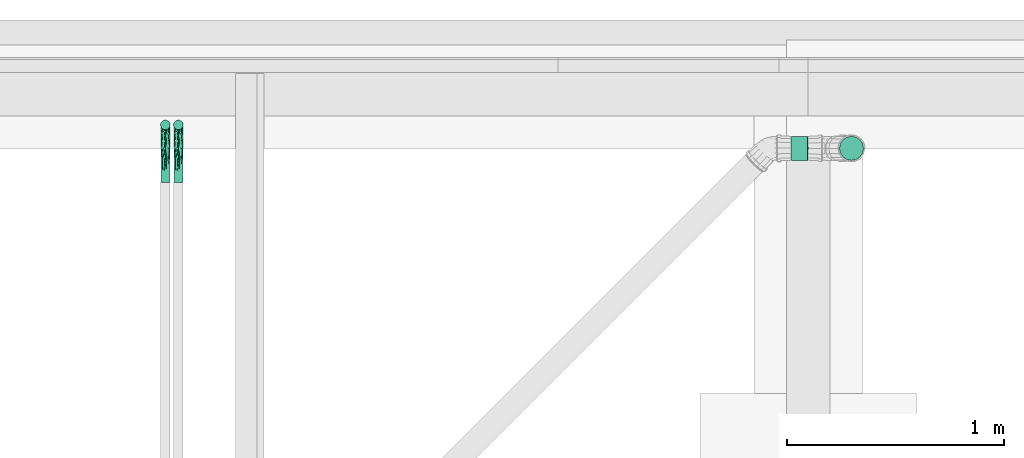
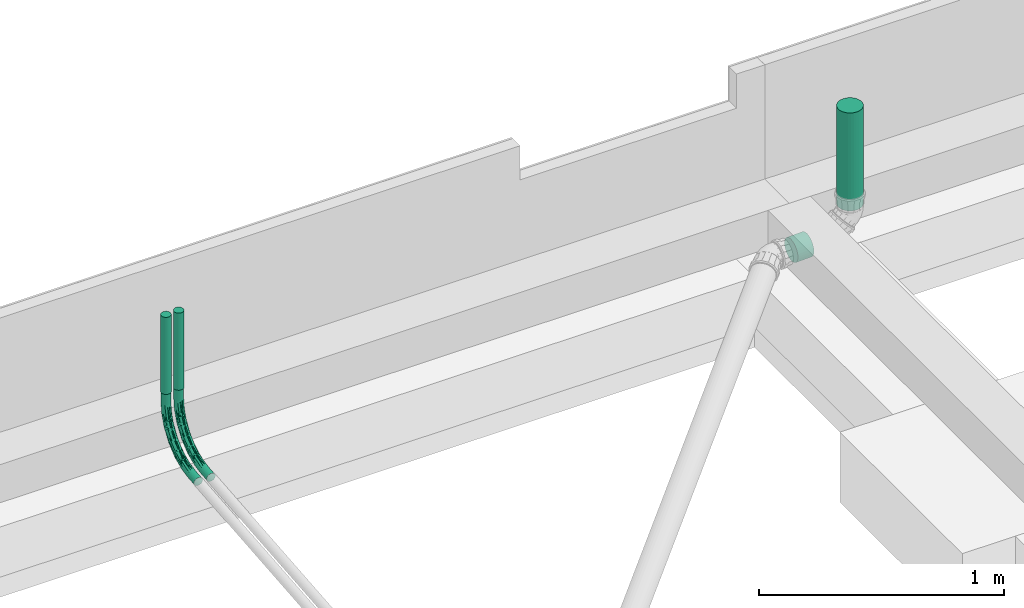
# One storey, part 16 of 18: 2 cable carrier fittings, 2 cable carrier segments, 2 pipe segments.
"""IFC4 building model written with IfcOpenShell, lengths in centimetres."""

from ifc_helpers import new_model, entity, si_unit, converted_unit, derived_unit, direction, frame, origin, place, context, subcontext, project, spatial, arc, indexed_curve, outline, extrude, polygons, source, transform, mapped, material, type_object, type_shapes, element, save


model = new_model("IFC4")

# Units and contexts
model_context = context("Model", 3, precision=0.001, world=origin(), true_north=direction((6.123233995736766e-17, 1.0)))
body_context = subcontext(model_context, "Body", "Model", "MODEL_VIEW")
ifc_project = project(units=[si_unit("LENGTHUNIT", "METRE", prefix="CENTI"), si_unit("AREAUNIT", "SQUARE_METRE"), converted_unit("PLANEANGLEUNIT", "DEGREE", entity("IfcPlaneAngleMeasure", 0.017453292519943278), si_unit("PLANEANGLEUNIT", "RADIAN"), dimensions=[0, 0, 0, 0, 0, 0, 0]), si_unit("VOLUMEUNIT", "CUBIC_METRE"), derived_unit("THERMALTRANSMITTANCEUNIT", [(si_unit("MASSUNIT", "GRAM", prefix="KILO"), 1), (si_unit("THERMODYNAMICTEMPERATUREUNIT", "KELVIN"), -1), (si_unit("TIMEUNIT", "SECOND"), -3)])], contexts=[model_context])

# Site, building, storey
site_placement = place(None, frame((-0.003347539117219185, 0.0, 0.0)))
site = spatial("IfcSite", under=ifc_project, at=site_placement, Name="Default", CompositionType="ELEMENT")
building_placement = place(site_placement, origin())
building = spatial("IfcBuilding", under=site, at=building_placement, CompositionType="ELEMENT")
storey_placement = place(building_placement, frame((0.0, 0.0, -30.0)))
storey = spatial("IfcBuildingStorey", under=building, at=storey_placement, Name="Fondation B.O.", CompositionType="ELEMENT", Elevation=-30.0)

# Pipe segments
pipe_segment_type = type_object("IfcPipeSegmentType", Name="Canalisation:Valsir PP3", PredefinedType="NOTDEFINED")
pipe_segment_1_placement = place(storey_placement, origin())
element("IfcPipeSegment", 1, at=pipe_segment_1_placement, inside=storey, type_object=pipe_segment_type, Name="Canalisation:Valsir PP3", ObjectType="Canalisation:Valsir PP3", PredefinedType="NOTDEFINED", context=body_context, shape_type="SweptSolid", body=[
    extrude(outline(indexed_curve([(5.50000000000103, -4.3788930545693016e-21), (3.889087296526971, 3.8890872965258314), (1.1255351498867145e-12, 5.499999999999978), (-3.8890872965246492, 3.8890872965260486), (-5.4999999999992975, 4.2126483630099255e-21), (-3.889087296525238, -3.8890872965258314), (6.070522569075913e-13, -5.499999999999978), (3.889087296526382, -3.8890872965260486)], segments=[arc(1, 2, 3), arc(3, 4, 5), arc(5, 6, 7), arc(7, 8, 1)], self_intersect=False)), frame((-5637.5871312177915, -1727.876363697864, 21.127875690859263)), (0.0, 0.0, 1.0), 48.87212431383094),
])
pipe_segment_2_placement = place(storey_placement, origin())
element("IfcPipeSegment", 2, at=pipe_segment_2_placement, inside=storey, type_object=pipe_segment_type, Name="Canalisation:Valsir PP3", ObjectType="Canalisation:Valsir PP3", PredefinedType="NOTDEFINED", context=body_context, shape_type="SweptSolid", body=[
    extrude(outline(indexed_curve([(5.500000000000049, -3.381698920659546e-15), (3.889087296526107, 3.8890872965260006), (0.0, 5.499999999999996), (-3.889087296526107, 3.889087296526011), (-5.500000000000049, 1.3526795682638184e-14), (-3.889087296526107, -3.8890872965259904), (0.0, -5.500000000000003), (3.8890872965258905, -3.8890872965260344)], segments=[arc(1, 2, 3), arc(3, 4, 5), arc(5, 6, 7), arc(7, 8, 1)], self_intersect=False)), frame((-5665.322860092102, -1727.876363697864, 7.520518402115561), z_axis=(0.9993318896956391, 0.0, 0.036548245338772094), x_axis=(0.0, 1.0, 0.0)), (0.0, 0.0, 1.0), 7.588799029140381),
])

# Cable carrier segments
cable_carrier_segment_type = type_object("IfcCableCarrierSegmentType", Name="Conduit sans raccords:TPC", PredefinedType="CONDUITSEGMENT")
cable_carrier_segment_1_placement = place(storey_placement, origin())
element("IfcCableCarrierSegment", 3, at=cable_carrier_segment_1_placement, inside=storey, type_object=cable_carrier_segment_type, Name="Conduit sans raccords:TPC", ObjectType="Conduit sans raccords:TPC", PredefinedType="CONDUITSEGMENT", context=body_context, shape_type="SweptSolid", body=[
    extrude(outline(indexed_curve([(2.2100000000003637, 1.3177158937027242e-26), (1.5627059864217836, 1.5627059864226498), (-8.662937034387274e-13, 2.2099999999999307), (-1.5627059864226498, 1.562705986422), (-2.2100000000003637, -1.3177158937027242e-26), (-1.5627059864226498, -1.562705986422), (-8.66293703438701e-13, -2.2099999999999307), (1.5627059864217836, -1.5627059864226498)], segments=[arc(1, 2, 3), arc(3, 4, 5), arc(5, 6, 7), arc(7, 8, 1)], self_intersect=False)), frame((-5948.099445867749, -1717.0668187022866, 31.54353718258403)), (0.0, 0.0, 1.0), 38.456462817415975),
])
cable_carrier_segment_2_placement = place(storey_placement, origin())
element("IfcCableCarrierSegment", 4, at=cable_carrier_segment_2_placement, inside=storey, type_object=cable_carrier_segment_type, Name="Conduit sans raccords:TPC", ObjectType="Conduit sans raccords:TPC", PredefinedType="CONDUITSEGMENT", context=body_context, shape_type="SweptSolid", body=[
    extrude(outline(indexed_curve([(2.21000000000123, 1.3177158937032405e-26), (1.5627059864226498, 1.5627059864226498), (-1.317715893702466e-26, 2.2099999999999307), (-1.5627059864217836, 1.562705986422), (-2.2099999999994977, -1.3177158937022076e-26), (-1.5627059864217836, -1.562705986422), (1.317715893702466e-26, -2.2099999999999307), (1.5627059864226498, -1.5627059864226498)], segments=[arc(1, 2, 3), arc(3, 4, 5), arc(5, 6, 7), arc(7, 8, 1)], self_intersect=False)), frame((-5954.09944586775, -1717.0668187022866, 31.54353718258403)), (0.0, 0.0, 1.0), 38.456462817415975),
])

# Cable carrier fittings
ifc_material = material(Name="<Unnamed>")
cable_carrier_fitting_type = type_object("IfcCableCarrierFittingType", Name="Courbure de conduit en plastique rigide - Sans raccords:Raccord TPC BT", PredefinedType="NOTDEFINED", material=ifc_material)
shared_shape = source(origin(), body_context, "Body", "Tessellation", [
    polygons([(-26.543537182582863, -2.050000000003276, -1.936944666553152e-13), (-26.543537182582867, -1.980147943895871, 0.5305790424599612), (-26.543537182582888, -1.7753520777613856, 1.0249999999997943), (-26.54353718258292, -1.4495689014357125, 1.4495689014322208), (-26.543537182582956, -1.0250000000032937, 1.7753520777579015), (-26.543537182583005, -0.530579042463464, 1.9801479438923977), (-26.54353718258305, -3.2977625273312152e-12, 2.0499999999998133), (-26.543537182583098, 0.5305790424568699, 1.980147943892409), (-26.543537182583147, 1.0249999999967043, 1.7753520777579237), (-26.543537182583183, 1.44956890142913, 1.4495689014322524), (-26.543537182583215, 1.7753520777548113, 1.0249999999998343), (-26.543537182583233, 1.9801479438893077, 0.5305790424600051), (-26.54353718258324, 2.049999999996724, -1.7382326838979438e-13), (-26.543537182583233, 1.9801479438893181, -0.5305790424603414), (-26.543537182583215, 1.775352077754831, -1.0250000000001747), (-26.543537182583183, 1.4495689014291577, -1.449568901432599), (-26.543537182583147, 1.0249999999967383, -1.7753520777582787), (-26.543537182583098, 0.5305790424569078, -1.980147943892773), (-26.54353718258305, -3.2603430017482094e-12, -2.0500000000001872), (-26.543537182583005, -0.5305790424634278, -1.9801479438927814), (-26.543537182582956, -1.0250000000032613, -1.7753520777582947), (-26.54353718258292, -1.449568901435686, -1.4495689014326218), (-26.543537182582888, -1.775352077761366, -1.0250000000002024), (-26.543537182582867, -1.9801479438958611, -0.5305790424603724), (-21.152537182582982, -2.0500000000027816, -1.936944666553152e-13), (-21.152537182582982, -1.9801479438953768, 0.5305790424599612), (-21.152537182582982, -1.7753520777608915, 1.0249999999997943), (-21.152537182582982, -1.4495689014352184, 1.4495689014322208), (-21.152537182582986, -1.0250000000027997, 1.7753520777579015), (-21.152537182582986, -0.5305790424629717, 1.9801479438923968), (-21.152537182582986, -2.805525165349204e-12, 2.0499999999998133), (-21.15253718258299, 0.5305790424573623, 1.9801479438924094), (-21.15253718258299, 1.0249999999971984, 1.7753520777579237), (-21.15253718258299, 1.449568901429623, 1.4495689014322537), (-21.152537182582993, 1.7753520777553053, 1.0249999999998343), (-21.152537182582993, 1.9801479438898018, 0.5305790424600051), (-21.152537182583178, 2.0499999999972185, -1.610779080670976e-13), (-21.152537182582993, 1.9801479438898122, -0.5305790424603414), (-21.152537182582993, 1.775352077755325, -1.0250000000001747), (-21.15253718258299, 1.4495689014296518, -1.449568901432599), (-21.15253718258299, 1.0249999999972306, -1.7753520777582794), (-21.15253718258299, 0.5305790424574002, -1.9801479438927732), (-21.152537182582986, -2.7644641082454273e-12, -2.0500000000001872), (-21.152537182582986, -0.5305790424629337, -1.9801479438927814), (-21.152537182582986, -1.0250000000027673, -1.7753520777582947), (-21.152537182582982, -1.449568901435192, -1.4495689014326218), (-21.152537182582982, -1.775352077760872, -1.0250000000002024), (-21.152537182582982, -1.980147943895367, -0.5305790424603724), (-0.12443941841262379, 21.25127864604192, -1.7382326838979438e-13), (-0.9943328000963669, 16.88089138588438, -1.7382326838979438e-13), (-2.7620338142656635, 12.790386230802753, -1.7382326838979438e-13), (-5.348812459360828, 9.161946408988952, -1.7382326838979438e-13), (-8.639458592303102, 6.157175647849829, -1.7382326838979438e-13), (-12.487413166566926, 3.9099006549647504, -1.7382326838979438e-13), (-16.72129569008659, 2.520210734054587, -1.7382326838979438e-13), (-15.860860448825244, -1.4884862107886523, -1.936944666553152e-13), (-10.80486481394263, 0.17104641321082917, -1.936944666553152e-13), (-6.209734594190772, 2.854685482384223, -1.936944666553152e-13), (-2.2801280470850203, 6.442906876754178, -1.936944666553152e-13), (0.8089377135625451, 10.775898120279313, -1.936944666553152e-13), (2.9198816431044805, 15.660676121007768, -1.936944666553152e-13), (3.958686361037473, 20.879682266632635, -1.936944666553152e-13), (3.889121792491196, 20.886013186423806, 0.5305790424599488), (3.6851687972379, 20.904574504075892, 1.0249999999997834), (3.3607264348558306, 20.934101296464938, 1.4495689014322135), (2.9379049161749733, 20.972581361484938, 1.7753520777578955), (2.4455188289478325, 21.01739234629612, 1.9801479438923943), (1.9171234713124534, 21.065480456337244, 2.049999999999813), (1.3887281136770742, 21.113568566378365, 1.980147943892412), (0.8963420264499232, 21.15837955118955, 1.7753520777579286), (0.47352050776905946, 21.19685961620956, 1.449568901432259), (0.14907814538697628, 21.226386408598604, 1.0249999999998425), (-0.054874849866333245, 21.24494772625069, 0.5305790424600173), (-6.584895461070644, 7.211385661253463, 1.328858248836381), (-4.534606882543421, 4.966031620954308, 1.4188653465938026), (-5.670708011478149, 6.21022196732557, 2.0397021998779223), (-10.345946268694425, 4.861622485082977, 0.7458470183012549), (-3.903926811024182, 10.74399054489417, 0.7458470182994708), (-0.6919821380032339, 8.718682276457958, 0.8137652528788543), (-0.7056316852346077, 10.624204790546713, 1.878243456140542), (-10.516525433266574, 1.6656338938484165, 1.878243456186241), (-8.620082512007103, 1.4793367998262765, 0.813765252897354), (-1.5101809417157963, 12.371842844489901, 1.9068430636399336), (-12.184051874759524, 2.625266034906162, 1.9068430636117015), (-13.9386075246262, 2.8523704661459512, 1.2697705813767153), (-1.5773295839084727, 14.139760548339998, 1.2697705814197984), (1.8490369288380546, 13.873721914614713, 1.226977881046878), (-13.984206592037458, -0.5840062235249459, 1.2269778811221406), (-14.435866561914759, 3.0929510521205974, 0.4545522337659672), (-6.8802381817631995, 7.5348274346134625, 0.45455223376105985), (-1.7718518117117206, 14.656777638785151, 0.45455223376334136), (-4.193930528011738, 4.5929431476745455, 0.5126565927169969), (1.9893993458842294, 13.317847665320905, 0.5126565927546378), (0.6455740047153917, 14.500300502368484, 2.0290856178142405), (-14.499132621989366, 0.6712925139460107, 2.0290856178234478), (-13.443341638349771, -0.7741716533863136, 0.5126565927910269), (-15.711710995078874, 1.9170871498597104, 1.6388391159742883), (-0.48519342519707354, 15.820798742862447, 1.6388391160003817), (-10.44743969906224, 4.929099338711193, 0.35433543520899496), (-3.9619272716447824, 10.85118191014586, 0.35433543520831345), (2.03613496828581, 15.479853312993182, 1.613941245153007), (-15.600685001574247, -0.6247653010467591, 1.6139412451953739), (0.5555723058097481, 15.819458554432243, 2.0349705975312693), (-15.804704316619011, 0.8804833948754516, 2.0349705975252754), (-0.5363182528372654, 9.828375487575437, 1.5077980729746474), (-9.73931692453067, 1.4248886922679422, 1.5077980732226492), (-10.22462295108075, 4.242162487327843, 1.5740141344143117), (-5.0754858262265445, 8.04529969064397, 1.7329393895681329), (-1.7770854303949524, 10.570710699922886, 2.049234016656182), (-4.427000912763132, 6.528344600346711, 2.0053094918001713), (-10.366142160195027, 2.7278295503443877, 2.0492340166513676), (1.7242966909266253, 16.02033854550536, 1.8867991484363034), (-16.11068285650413, -0.26522450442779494, 1.8867991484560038), (-0.6200425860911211, 8.591225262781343, 0.38289381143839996), (-8.49967018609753, 1.3961414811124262, 0.38289381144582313), (-4.833483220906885, 5.35150740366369, 1.79318215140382), (-14.664667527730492, 2.860714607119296, 0.8845129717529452), (-1.5198341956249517, 14.863588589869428, 0.8845129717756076), (-4.319795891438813, 4.730783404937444, 0.9843600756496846), (-1.493024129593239, 7.998709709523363, 1.1963918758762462), (-7.830472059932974, 2.2118285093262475, 1.1963918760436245), (0.40128762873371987, 17.085841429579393, 1.899781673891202), (-17.05189186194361, 1.1489095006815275, 1.899781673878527), (-2.7691440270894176, 11.397068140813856, 1.553448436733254), (-9.793814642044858, 2.5218789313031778, 2.0112283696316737), (-3.7505957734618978, 10.417995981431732, 1.2892169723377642), (-6.792924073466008, 7.43920621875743, 0.8411517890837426), (-9.935481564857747, 4.872230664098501, 1.13525711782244), (2.8174852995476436, 16.007312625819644, 0.8813213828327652), (-12.79883623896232, -0.41125032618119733, 0.8884461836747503), (-17.279976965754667, -1.6001450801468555, 0.767031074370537), (-8.55545242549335, 4.882353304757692, 1.8098869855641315), (-5.303082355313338, 7.19740517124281, 1.9385269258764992), (-8.648019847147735, 4.261987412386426, 1.9880041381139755), (-1.3809230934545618, 10.308589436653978, 2.006728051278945), (-0.054874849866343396, 21.24494772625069, -0.5305790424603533), (0.14907814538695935, 21.226386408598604, -1.0250000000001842), (0.47352050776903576, 21.196859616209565, -1.4495689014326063), (0.8963420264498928, 21.15837955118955, -1.7753520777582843), (1.3887281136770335, 21.11356856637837, -1.9801479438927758), (1.9171234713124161, 21.06548045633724, -2.0500000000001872), (2.445518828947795, 21.017392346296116, -1.9801479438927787), (2.937904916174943, 20.97258136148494, -1.7753520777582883), (3.3607264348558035, 20.934101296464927, -1.449568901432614), (3.6851687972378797, 20.904574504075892, -1.0250000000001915), (3.889121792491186, 20.8860131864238, -0.5305790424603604), (-6.5848956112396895, 7.211385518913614, -1.328858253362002), (-4.53460688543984, 4.966031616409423, -1.4188653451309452), (-5.670708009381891, 6.2102219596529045, -2.0397022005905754), (-10.345946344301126, 4.861622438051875, -0.7458470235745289), (-3.9039267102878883, 10.74399066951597, -0.745847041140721), (-8.620082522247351, 1.4793367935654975, -0.8137652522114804), (-10.516525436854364, 1.665633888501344, -1.878243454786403), (-0.7056316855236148, 10.624204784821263, -1.8782434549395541), (-0.6919821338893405, 8.71868228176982, -0.8137652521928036), (-12.184051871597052, 2.6252660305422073, -1.9068430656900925), (-1.5101809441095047, 12.371842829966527, -1.9068430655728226), (-13.938607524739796, 2.852370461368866, -1.2697705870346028), (-1.5773295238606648, 14.139760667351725, -1.2697705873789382), (-13.984206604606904, -0.5840062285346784, -1.2269778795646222), (1.8490369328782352, 13.873721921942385, -1.2269778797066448), (-6.880238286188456, 7.534827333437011, -0.45455225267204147), (-14.435866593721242, 3.0929510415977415, -0.4545522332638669), (-1.7718517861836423, 14.656777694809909, -0.4545522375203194), (-13.443341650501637, -0.7741716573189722, -0.5126565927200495), (-14.49913261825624, 0.6712925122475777, -2.0290856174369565), (0.6455740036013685, 14.500300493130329, -2.029085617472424), (-4.19393052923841, 4.592943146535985, -0.5126565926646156), (1.9893993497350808, 13.317847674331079, -0.5126565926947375), (-15.711711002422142, 1.9170871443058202, -1.6388391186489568), (-0.4851934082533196, 15.820798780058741, -1.6388391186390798), (-10.44743976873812, 4.92909929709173, -0.3543354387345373), (-3.961927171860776, 10.851182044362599, -0.354335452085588), (-15.60068499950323, -0.6247653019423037, -1.6139412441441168), (2.0361349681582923, 15.47985330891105, -1.6139412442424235), (-15.804704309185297, 0.8804833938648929, -2.0349705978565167), (0.5555723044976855, 15.819458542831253, -2.034970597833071), (-9.739316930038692, 1.4248886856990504, -1.5077980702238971), (-0.5363182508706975, 9.82837548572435, -1.5077980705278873), (-10.224623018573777, 4.242162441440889, -1.574014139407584), (-5.075485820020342, 8.045299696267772, -1.7329393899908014), (-10.366142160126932, 2.7278295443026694, -2.0492340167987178), (-6.100242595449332, 5.000466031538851, -2.0053094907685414), (-1.777085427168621, 10.570710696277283, -2.0492340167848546), (-16.110682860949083, -0.2652245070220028, -1.8867991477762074), (1.7242966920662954, 16.020338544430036, -1.8867991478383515), (-8.499670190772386, 1.3961414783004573, -0.3828938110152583), (-0.6200425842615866, 8.591225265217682, -0.38289381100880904), (-4.891408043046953, 5.29861480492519, -1.7931821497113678), (-14.664667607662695, 2.8607145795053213, -0.8845129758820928), (-1.5198341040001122, 14.863588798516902, -0.8845129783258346), (-4.319795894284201, 4.730783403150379, -0.9843600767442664), (-7.830472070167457, 2.2118285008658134, -1.196391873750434), (-1.4930241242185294, 7.998709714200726, -1.1963918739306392), (-17.051891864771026, 1.1489094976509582, -1.8997816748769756), (0.40128763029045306, 17.08584142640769, -1.8997816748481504), (-2.769144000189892, 11.397068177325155, -1.5534484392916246), (-1.6238543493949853, 9.982072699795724, -2.011228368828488), (-3.7505958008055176, 10.417995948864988, -1.289216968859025), (-6.792924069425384, 7.439206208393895, -0.8411518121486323), (-9.93548167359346, 4.872230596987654, -1.13525711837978), (-16.19678980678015, -1.3550945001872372, -0.8813213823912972), (1.5695580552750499, 12.708887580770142, -0.8884461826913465), (3.159700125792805, 17.063832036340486, -0.76703107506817), (-4.559861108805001, 7.9500933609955, -1.943366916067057), (-7.997709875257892, 5.153082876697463, -1.860530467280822), (-10.141005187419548, 2.3095407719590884, -2.0067280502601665), (4.44729028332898, 26.24849472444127, -1.9278408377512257e-13), (4.377725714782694, 26.25482564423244, -0.5305790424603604), (4.1737727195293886, 26.273386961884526, -1.0250000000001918), (3.849330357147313, 26.30291375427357, -1.449568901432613), (3.4265088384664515, 26.34139381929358, -1.7753520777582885), (2.934122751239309, 26.38620480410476, -1.9801479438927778), (2.4057273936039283, 26.43429291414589, -2.0500000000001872), (1.8773320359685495, 26.482381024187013, -1.9801479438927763), (1.3849459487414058, 26.527192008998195, -1.7753520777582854), (0.9621244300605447, 26.56567207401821, -1.4495689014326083), (0.6376820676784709, 26.595198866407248, -1.0250000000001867), (0.4337290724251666, 26.613760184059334, -0.530579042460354), (0.3641645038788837, 26.620091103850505, -1.6289867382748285e-13), (0.4337290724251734, 26.613760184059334, 0.5305790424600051), (0.637682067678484, 26.595198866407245, 1.0249999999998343), (0.9621244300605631, 26.565672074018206, 1.4495689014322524), (1.3849459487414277, 26.527192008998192, 1.7753520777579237), (1.8773320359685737, 26.48238102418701, 1.980147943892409), (2.4057273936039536, 26.434292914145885, 2.0499999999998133), (2.934122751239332, 26.386204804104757, 1.9801479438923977), (3.4265088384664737, 26.341393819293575, 1.7753520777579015), (3.849330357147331, 26.30291375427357, 1.4495689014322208), (4.173772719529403, 26.273386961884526, 1.0249999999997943), (4.377725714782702, 26.25482564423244, 0.5305790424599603)], [[[19, 20, 21, 22, 23, 24, 1, 2, 3, 4, 5, 6, 7, 8, 9, 10, 11, 12, 13, 14, 15, 16, 17, 18]], [[2, 1, 25, 26]], [[27, 3, 2, 26]], [[5, 4, 28, 29]], [[27, 28, 4, 3]], [[6, 5, 29, 30]], [[30, 31, 7, 6]], [[9, 8, 32, 33]], [[34, 10, 9, 33]], [[12, 11, 35, 36]], [[34, 35, 11, 10]], [[13, 12, 36, 37]], [[32, 8, 7, 31]], [[14, 13, 37, 38]], [[39, 15, 14, 38]], [[17, 16, 40, 41]], [[39, 40, 16, 15]], [[18, 17, 41, 42]], [[42, 43, 19, 18]], [[21, 20, 44, 45]], [[46, 22, 21, 45]], [[24, 23, 47, 48]], [[46, 47, 23, 22]], [[1, 24, 48, 25]], [[44, 20, 19, 43]], [[54, 55, 89]], [[57, 96, 56]], [[72, 86, 71]], [[57, 58, 115]], [[56, 26, 25]], [[85, 35, 34]], [[102, 29, 28]], [[73, 50, 91]], [[59, 92, 58]], [[57, 115, 96]], [[28, 88, 102]], [[60, 61, 93]], [[30, 29, 113]], [[119, 92, 79]], [[115, 92, 82]], [[118, 73, 91]], [[94, 67, 68]], [[95, 104, 31]], [[99, 53, 54]], [[117, 77, 89]], [[30, 95, 31]], [[116, 80, 110]], [[32, 123, 33]], [[135, 110, 80]], [[128, 117, 85]], [[127, 78, 90]], [[130, 131, 96]], [[55, 37, 36]], [[77, 99, 89]], [[94, 68, 103]], [[91, 78, 118]], [[131, 26, 96]], [[32, 31, 104]], [[27, 88, 28]], [[92, 59, 114]], [[87, 64, 65]], [[94, 80, 112]], [[127, 90, 77]], [[92, 119, 82]], [[93, 79, 114]], [[99, 90, 53]], [[101, 105, 87]], [[55, 36, 89]], [[129, 64, 87]], [[67, 112, 66]], [[129, 79, 93]], [[121, 82, 119]], [[87, 105, 120]], [[106, 81, 102]], [[62, 63, 61]], [[117, 36, 35]], [[65, 66, 101]], [[50, 51, 91]], [[52, 53, 90]], [[113, 95, 30]], [[91, 51, 100]], [[49, 50, 73]], [[65, 101, 87]], [[108, 74, 107]], [[34, 97, 85]], [[74, 124, 126]], [[98, 70, 71]], [[52, 100, 51]], [[78, 100, 90]], [[34, 33, 97]], [[85, 97, 107]], [[77, 117, 128]], [[94, 103, 109]], [[69, 70, 122]], [[132, 133, 108]], [[124, 98, 86]], [[114, 59, 60]], [[126, 118, 78]], [[98, 71, 86]], [[61, 63, 93]], [[63, 64, 129]], [[68, 69, 103]], [[109, 110, 135]], [[95, 125, 111]], [[111, 84, 104]], [[130, 96, 82]], [[26, 56, 96]], [[123, 97, 33]], [[107, 74, 128]], [[124, 74, 108]], [[122, 98, 83]], [[89, 99, 54]], [[90, 99, 77]], [[90, 100, 52]], [[91, 100, 78]], [[112, 101, 66]], [[80, 116, 105]], [[106, 102, 88]], [[113, 102, 81]], [[122, 103, 69]], [[83, 133, 109]], [[111, 104, 95]], [[123, 104, 84]], [[80, 105, 101]], [[75, 119, 120]], [[88, 130, 121]], [[106, 75, 116]], [[97, 84, 107]], [[84, 134, 132]], [[132, 108, 107]], [[124, 83, 98]], [[83, 109, 103]], [[109, 76, 110]], [[110, 76, 111]], [[116, 75, 105]], [[95, 81, 125]], [[111, 76, 134]], [[94, 112, 67]], [[101, 112, 80]], [[102, 113, 29]], [[95, 113, 81]], [[93, 114, 60]], [[92, 114, 79]], [[92, 115, 58]], [[96, 115, 82]], [[125, 116, 110]], [[106, 116, 81]], [[36, 117, 89]], [[35, 85, 117]], [[86, 72, 118]], [[73, 118, 72]], [[120, 119, 79]], [[121, 75, 106]], [[87, 120, 79]], [[75, 120, 105]], [[75, 121, 119]], [[88, 121, 106]], [[98, 122, 70]], [[103, 122, 83]], [[104, 123, 32]], [[97, 123, 84]], [[124, 86, 126]], [[83, 124, 108]], [[116, 125, 81]], [[110, 111, 125]], [[118, 126, 86]], [[127, 126, 78]], [[128, 127, 77]], [[126, 127, 74]], [[107, 128, 85]], [[127, 128, 74]], [[79, 129, 87]], [[63, 129, 93]], [[121, 130, 82]], [[131, 88, 27]], [[88, 131, 130]], [[27, 26, 131]], [[107, 84, 132]], [[133, 134, 76]], [[109, 133, 76]], [[83, 108, 133]], [[132, 134, 133]], [[111, 134, 84]], [[80, 94, 135]], [[109, 135, 94]], [[170, 41, 40]], [[57, 56, 165]], [[166, 176, 182]], [[170, 40, 158]], [[53, 172, 54]], [[189, 153, 183]], [[37, 55, 38]], [[204, 146, 169]], [[53, 52, 162]], [[54, 172, 163]], [[203, 204, 169]], [[55, 54, 163]], [[159, 137, 138]], [[39, 158, 40]], [[173, 162, 52]], [[166, 43, 176]], [[152, 165, 202]], [[50, 136, 164]], [[160, 202, 47]], [[48, 47, 202]], [[56, 48, 165]], [[25, 48, 56]], [[187, 58, 57]], [[191, 136, 137]], [[166, 153, 185]], [[201, 190, 150]], [[190, 38, 163]], [[187, 165, 152]], [[192, 155, 168]], [[142, 167, 141]], [[160, 174, 178]], [[185, 45, 44]], [[38, 55, 163]], [[46, 174, 160]], [[172, 162, 150]], [[200, 162, 151]], [[164, 151, 173]], [[207, 183, 153]], [[200, 150, 162]], [[138, 171, 159]], [[50, 49, 136]], [[186, 167, 142]], [[151, 164, 191]], [[51, 50, 164]], [[196, 139, 140]], [[145, 161, 144]], [[160, 178, 193]], [[177, 141, 167]], [[166, 44, 43]], [[199, 191, 159]], [[194, 155, 192]], [[141, 177, 140]], [[161, 175, 144]], [[199, 159, 197]], [[41, 195, 42]], [[59, 58, 168]], [[188, 169, 60]], [[160, 47, 46]], [[143, 144, 175]], [[143, 186, 142]], [[59, 188, 60]], [[158, 180, 170]], [[62, 61, 146]], [[159, 171, 197]], [[205, 206, 181]], [[61, 60, 169]], [[201, 158, 190]], [[188, 168, 155]], [[138, 139, 171]], [[52, 51, 173]], [[46, 45, 174]], [[163, 150, 190]], [[179, 154, 175]], [[181, 206, 180]], [[43, 42, 176]], [[182, 183, 207]], [[167, 198, 184]], [[184, 157, 177]], [[187, 168, 58]], [[192, 168, 152]], [[203, 169, 155]], [[146, 61, 169]], [[158, 201, 180]], [[195, 170, 156]], [[196, 171, 139]], [[157, 181, 197]], [[162, 172, 53]], [[163, 172, 150]], [[164, 173, 51]], [[162, 173, 151]], [[185, 174, 45]], [[153, 189, 178]], [[179, 175, 161]], [[186, 175, 154]], [[195, 176, 42]], [[182, 156, 149]], [[184, 177, 167]], [[196, 177, 157]], [[153, 178, 174]], [[148, 192, 193]], [[161, 203, 194]], [[179, 148, 189]], [[181, 180, 147]], [[156, 170, 180]], [[199, 197, 147]], [[181, 157, 205]], [[156, 182, 176]], [[182, 149, 183]], [[183, 149, 184]], [[189, 148, 178]], [[167, 154, 198]], [[184, 149, 205]], [[166, 185, 44]], [[174, 185, 153]], [[175, 186, 143]], [[167, 186, 154]], [[165, 187, 57]], [[168, 187, 152]], [[168, 188, 59]], [[169, 188, 155]], [[198, 189, 183]], [[179, 189, 154]], [[158, 39, 190]], [[38, 190, 39]], [[136, 191, 164]], [[137, 159, 191]], [[193, 192, 152]], [[194, 148, 179]], [[160, 193, 152]], [[148, 193, 178]], [[148, 194, 192]], [[161, 194, 179]], [[170, 195, 41]], [[176, 195, 156]], [[177, 196, 140]], [[171, 196, 157]], [[157, 197, 171]], [[147, 197, 181]], [[189, 198, 154]], [[183, 184, 198]], [[200, 199, 147]], [[191, 199, 151]], [[199, 200, 151]], [[201, 200, 147]], [[200, 201, 150]], [[180, 201, 147]], [[152, 202, 160]], [[48, 202, 165]], [[194, 203, 155]], [[204, 161, 145]], [[161, 204, 203]], [[145, 146, 204]], [[184, 205, 157]], [[206, 149, 156]], [[149, 206, 205]], [[180, 206, 156]], [[153, 166, 207]], [[182, 207, 166]], [[215, 216, 217, 218, 219, 220, 221, 222, 223, 224, 225, 226, 227, 228, 229, 230, 231, 208, 209, 210, 211, 212, 213, 214]], [[63, 62, 208, 231]], [[230, 64, 63, 231]], [[66, 65, 229, 228]], [[230, 229, 65, 64]], [[67, 66, 228, 227]], [[227, 226, 68, 67]], [[70, 69, 225, 224]], [[223, 71, 70, 224]], [[73, 72, 222, 221]], [[223, 222, 72, 71]], [[49, 73, 221, 220]], [[225, 69, 68, 226]], [[49, 220, 219, 136]], [[218, 137, 136, 219]], [[216, 215, 140, 139]], [[217, 216, 139, 138]], [[138, 137, 218, 217]], [[215, 214, 141, 140]], [[143, 142, 213, 212]], [[211, 144, 143, 212]], [[146, 145, 210, 209]], [[211, 210, 145, 144]], [[62, 146, 209, 208]], [[213, 142, 141, 214]]], closed=True),
])
type_shapes(cable_carrier_fitting_type, [shared_shape])
for number, where, z_axis, x_axis in (
    (5, (-5948.09944586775, -1717.0668187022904, 5.0), (1.0, 0.0, 0.0), (0.0, 0.9958843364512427, 0.09063326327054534)),
    (6, (-5954.09944586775, -1717.0668187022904, 5.0), (1.0, 0.0, 0.0), (0.0, 0.9958843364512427, 0.09063326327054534)),
):
    element("IfcCableCarrierFitting", number, at=place(storey_placement, frame(where, z_axis=z_axis, x_axis=x_axis)), inside=storey, type_object=cable_carrier_fitting_type, material=ifc_material, Name="Courbure de conduit en plastique rigide - Sans raccords:Raccord TPC BT", ObjectType="Courbure de conduit en plastique rigide - Sans raccords:Raccord TPC BT", PredefinedType="NOTDEFINED", context=body_context, shape_type="MappedRepresentation", body=[
        mapped(shared_shape, transform((0.0, 0.0, 0.0), scale=1.0)),
    ])

save(model, "model.ifc")
